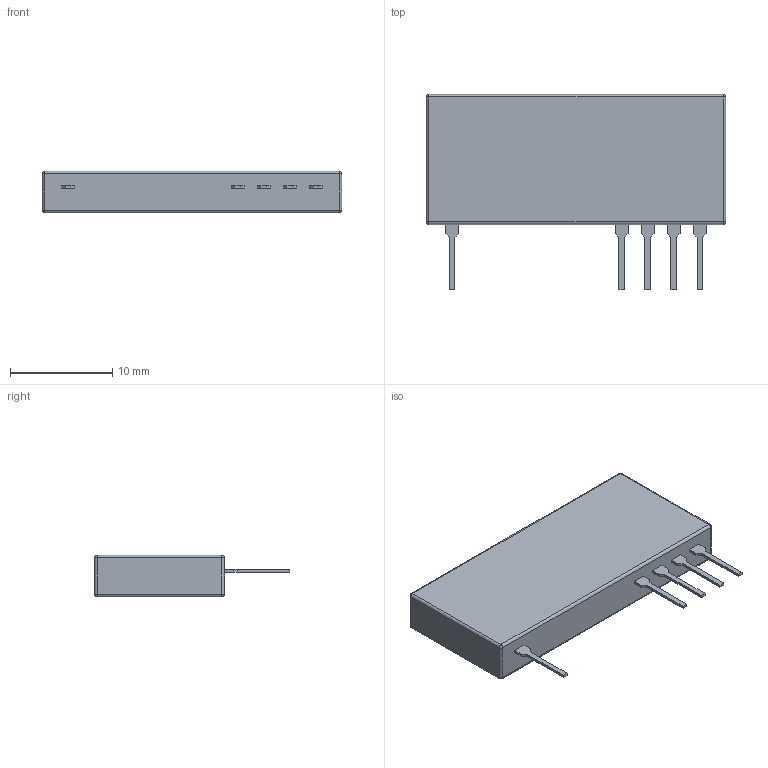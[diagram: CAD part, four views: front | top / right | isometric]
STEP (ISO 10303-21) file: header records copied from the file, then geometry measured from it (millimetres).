
FILE_DESCRIPTION (( 'STEP AP214' ), '1' );
FILE_NAME ('SIP90.STEP', '2017-10-17T21:51:20', ( '' ), ( '' ), 'SwSTEP 2.0', 'SolidWorks 2017', '' );
FILE_SCHEMA (( 'AUTOMOTIVE_DESIGN' ));
Length unit declared in the file: inch
Products named in the file (1): SIP90
Bounding box: 29.21 x 19.05 x 4.06 mm (x, y, z)
Volume: 1510.2 mm3; surface area: 1118.5 mm2
Topology: 1 solids, 1 shells, 71 faces, 176 edges, 104 vertices
Faces by surface type: plane 51, cylinder 12, sphere 8
Entity records: 2502 total; most frequent: CARTESIAN_POINT 344, ORIENTED_EDGE 336, DIRECTION 336, EDGE_CURVE 168, LINE 144, VECTOR 144, VERTEX_POINT 104, AXIS2_PLACEMENT_3D 96
